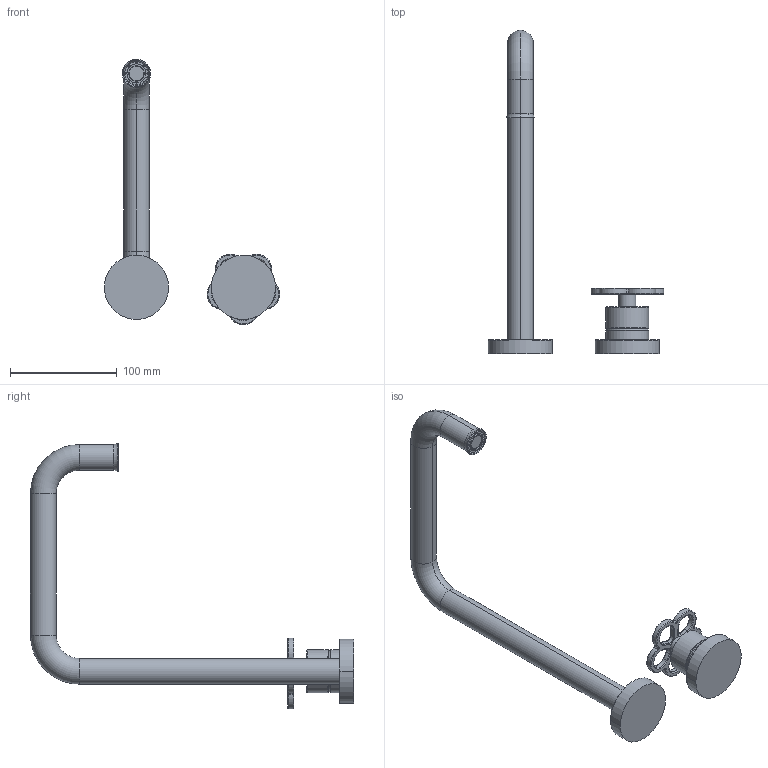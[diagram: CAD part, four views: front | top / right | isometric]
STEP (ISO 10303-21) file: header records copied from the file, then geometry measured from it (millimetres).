
FILE_DESCRIPTION((''),'2;1');
FILE_NAME('20930T607W000000_SW0003','2023-01-31T17:15:33',('matteo.follador'),(''),'CREO PARAMETRIC BY PTC INC, 2020281','CREO PARAMETRIC BY PTC INC, 2020281','');
FILE_SCHEMA(('AUTOMOTIVE_DESIGN { 1 0 10303 214 1 1 1 1 }'));
Length unit declared in the file: millimetre
Products named in the file (1): 20930T607W000000_SW0003
Bounding box: 163.96 x 302 x 248.22 mm (x, y, z)
Volume: 341654.2 mm3; surface area: 72449.4 mm2
Topology: 4 solids, 4 shells, 846 faces, 2285 edges, 1482 vertices
Faces by surface type: plane 662, cylinder 86, torus 68, cone 28, sphere 2
Entity records: 32246 total; most frequent: CARTESIAN_POINT 4819, ORIENTED_EDGE 4570, DIRECTION 4362, EDGE_CURVE 2285, VECTOR 1891, LINE 1891, VERTEX_POINT 1482, AXIS2_PLACEMENT_3D 1234
